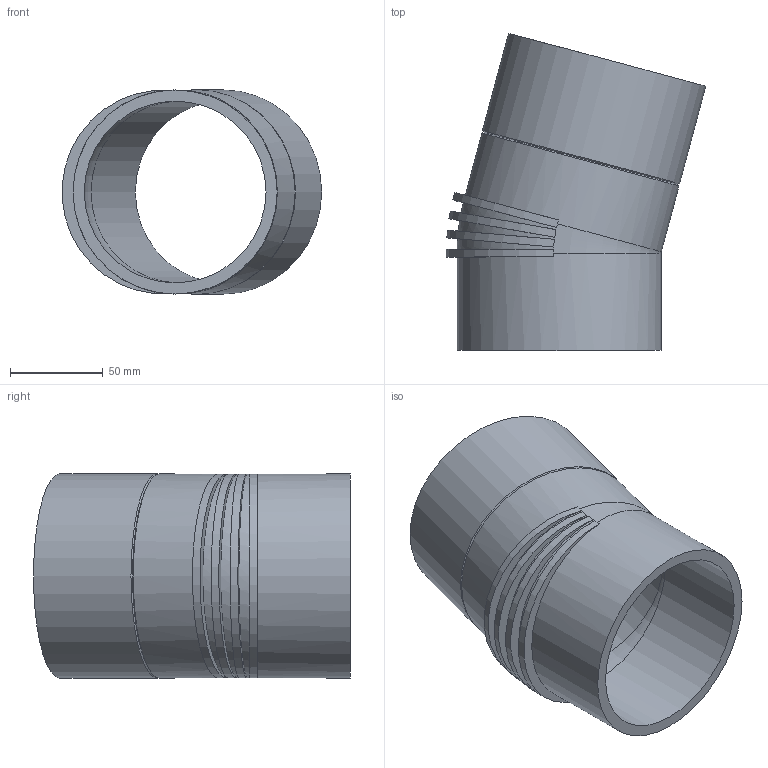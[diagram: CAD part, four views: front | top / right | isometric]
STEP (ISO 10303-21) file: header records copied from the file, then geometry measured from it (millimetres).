
FILE_DESCRIPTION(/* description */ (''),/* implementation_level */ '2;1');
FILE_NAME(/* name */ 'Z:\Geberit\Export\NewStep\Bogen_Ipart\stp\310150.stp',/* time_stamp */ '2014-04-03T16:41:50+02:00',/* author */ ('Marco'),/* organization */ (''),/* preprocessor_version */ 'ST-DEVELOPER v15.2',/* originating_system */ 'Autodesk Inventor 2014',/* authorisation */ '');
FILE_SCHEMA (('AUTOMOTIVE_DESIGN { 1 0 10303 214 3 1 1 }'));
Length unit declared in the file: millimetre
Products named in the file (1): 310150
Bounding box: 139.81 x 170.83 x 110 mm (x, y, z)
Volume: 324339.3 mm3; surface area: 114338.9 mm2
Topology: 1 solids, 1 shells, 23 faces, 60 edges, 39 vertices
Faces by surface type: plane 10, cylinder 9, cone 2, torus 2
Full cylindrical faces by diameter (mm): 98 x2, 110 x3
Entity records: 864 total; most frequent: CARTESIAN_POINT 340, DIRECTION 94, ORIENTED_EDGE 90, EDGE_CURVE 45, AXIS2_PLACEMENT_3D 45, EDGE_LOOP 36, VERTEX_POINT 35, STYLED_ITEM 24
